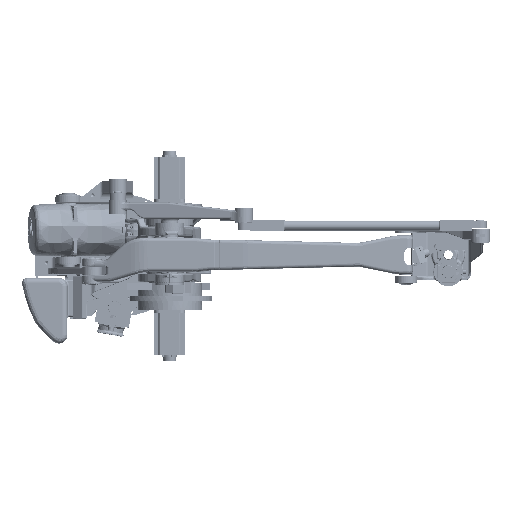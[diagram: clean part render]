
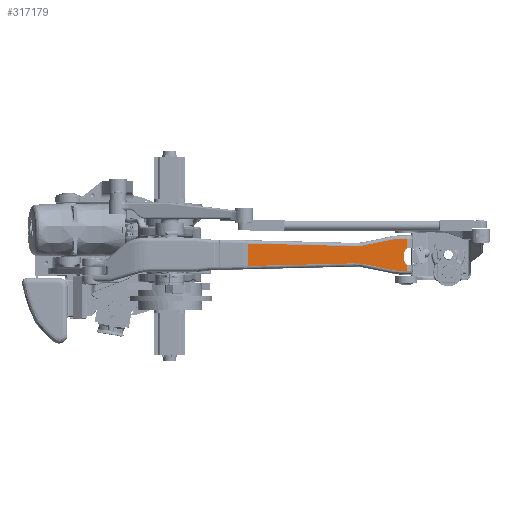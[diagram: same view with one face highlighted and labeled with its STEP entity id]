
A CAD part, top view. The second image highlights one B-rep face of the part: STEP entity #317179.
In plain terms, the highlighted planar face has unit normal (0.106, 0, 0.994).
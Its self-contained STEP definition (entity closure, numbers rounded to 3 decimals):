
#317045=AXIS2_PLACEMENT_3D('Plane Axis2P3D',#317042,#317043,#317044) ;
#314397=CARTESIAN_POINT('Vertex',(735.813,66.401,2293.319)) ;
#314400=CARTESIAN_POINT('Line Origine',(1052.331,58.488,2259.668)) ;
#314404=CARTESIAN_POINT('Vertex',(1368.848,50.575,2226.017)) ;
#314790=CARTESIAN_POINT('Vertex',(735.813,-66.401,2293.319)) ;
#314815=CARTESIAN_POINT('Vertex',(1368.848,-50.575,2226.017)) ;
#314818=CARTESIAN_POINT('Line Origine',(1052.331,-58.488,2259.668)) ;
#316991=CARTESIAN_POINT('Control Point',(1418.434,54.969,2220.745)) ;
#316992=CARTESIAN_POINT('Control Point',(1402.145,51.636,2222.477)) ;
#316993=CARTESIAN_POINT('Control Point',(1385.47,50.158,2224.25)) ;
#316994=CARTESIAN_POINT('Control Point',(1368.848,50.575,2226.017)) ;
#316995=CARTESIAN_POINT('Vertex',(1418.434,54.969,2220.745)) ;
#317042=CARTESIAN_POINT('Axis2P3D Location',(1692.997,98.8,2191.555)) ;
#317047=CARTESIAN_POINT('Line Origine',(1674.229,66.906,2193.55)) ;
#317051=CARTESIAN_POINT('Vertex',(1674.229,95.,2193.55)) ;
#317053=CARTESIAN_POINT('Vertex',(1674.229,38.813,2193.55)) ;
#317056=CARTESIAN_POINT('Line Origine',(1653.901,95.,2195.712)) ;
#317060=CARTESIAN_POINT('Vertex',(1633.574,95.,2197.873)) ;
#317064=CARTESIAN_POINT('Control Point',(1595.098,91.105,2201.963)) ;
#317065=CARTESIAN_POINT('Control Point',(1602.687,92.658,2201.156)) ;
#317066=CARTESIAN_POINT('Control Point',(1610.357,93.827,2200.341)) ;
#317067=CARTESIAN_POINT('Control Point',(1618.079,94.609,2199.52)) ;
#317068=CARTESIAN_POINT('Control Point',(1625.828,95.001,2198.696)) ;
#317069=CARTESIAN_POINT('Control Point',(1633.574,95.,2197.873)) ;
#317070=CARTESIAN_POINT('Vertex',(1595.098,91.105,2201.963)) ;
#317073=CARTESIAN_POINT('Line Origine',(1506.766,73.037,2211.354)) ;
#317078=CARTESIAN_POINT('Line Origine',(735.813,0.,2293.319)) ;
#317084=CARTESIAN_POINT('Control Point',(1368.848,-50.575,2226.017)) ;
#317085=CARTESIAN_POINT('Control Point',(1378.822,-50.325,2224.957)) ;
#317086=CARTESIAN_POINT('Control Point',(1388.81,-50.643,2223.895)) ;
#317087=CARTESIAN_POINT('Control Point',(1398.771,-51.526,2222.836)) ;
#317088=CARTESIAN_POINT('Control Point',(1408.66,-52.969,2221.785)) ;
#317089=CARTESIAN_POINT('Control Point',(1418.434,-54.969,2220.745)) ;
#317090=CARTESIAN_POINT('Vertex',(1418.434,-54.969,2220.745)) ;
#317093=CARTESIAN_POINT('Line Origine',(1506.766,-73.037,2211.354)) ;
#317097=CARTESIAN_POINT('Vertex',(1595.098,-91.105,2201.963)) ;
#317101=CARTESIAN_POINT('Control Point',(1633.574,-95.,2197.873)) ;
#317102=CARTESIAN_POINT('Control Point',(1625.828,-95.001,2198.696)) ;
#317103=CARTESIAN_POINT('Control Point',(1618.079,-94.609,2199.52)) ;
#317104=CARTESIAN_POINT('Control Point',(1610.357,-93.827,2200.341)) ;
#317105=CARTESIAN_POINT('Control Point',(1602.687,-92.658,2201.156)) ;
#317106=CARTESIAN_POINT('Control Point',(1595.098,-91.105,2201.963)) ;
#317107=CARTESIAN_POINT('Vertex',(1633.574,-95.,2197.873)) ;
#317110=CARTESIAN_POINT('Line Origine',(1653.901,-95.,2195.712)) ;
#317114=CARTESIAN_POINT('Vertex',(1674.229,-95.,2193.55)) ;
#317117=CARTESIAN_POINT('Line Origine',(1674.229,-76.906,2193.55)) ;
#317121=CARTESIAN_POINT('Vertex',(1674.229,-58.813,2193.55)) ;
#317125=CARTESIAN_POINT('Control Point',(1657.317,-30.,2195.348)) ;
#317126=CARTESIAN_POINT('Control Point',(1657.315,-32.519,2195.349)) ;
#317127=CARTESIAN_POINT('Control Point',(1657.559,-35.039,2195.323)) ;
#317128=CARTESIAN_POINT('Control Point',(1658.041,-37.534,2195.271)) ;
#317129=CARTESIAN_POINT('Control Point',(1659.471,-42.394,2195.119)) ;
#317130=CARTESIAN_POINT('Control Point',(1661.801,-46.893,2194.872)) ;
#317131=CARTESIAN_POINT('Control Point',(1663.181,-49.036,2194.725)) ;
#317132=CARTESIAN_POINT('Control Point',(1665.977,-52.566,2194.428)) ;
#317133=CARTESIAN_POINT('Control Point',(1669.321,-55.571,2194.072)) ;
#317134=CARTESIAN_POINT('Control Point',(1670.877,-56.774,2193.907)) ;
#317135=CARTESIAN_POINT('Control Point',(1672.517,-57.858,2193.732)) ;
#317136=CARTESIAN_POINT('Control Point',(1674.229,-58.813,2193.55)) ;
#317137=CARTESIAN_POINT('Vertex',(1657.317,-30.,2195.348)) ;
#317140=CARTESIAN_POINT('Line Origine',(1657.317,-10.,2195.348)) ;
#317144=CARTESIAN_POINT('Vertex',(1657.317,10.,2195.348)) ;
#317148=CARTESIAN_POINT('Control Point',(1674.229,38.813,2193.55)) ;
#317149=CARTESIAN_POINT('Control Point',(1672.025,37.584,2193.785)) ;
#317150=CARTESIAN_POINT('Control Point',(1669.94,36.14,2194.006)) ;
#317151=CARTESIAN_POINT('Control Point',(1667.995,34.5,2194.213)) ;
#317152=CARTESIAN_POINT('Control Point',(1664.447,30.878,2194.59)) ;
#317153=CARTESIAN_POINT('Control Point',(1661.657,26.646,2194.887)) ;
#317154=CARTESIAN_POINT('Control Point',(1660.46,24.397,2195.014)) ;
#317155=CARTESIAN_POINT('Control Point',(1658.744,20.237,2195.197)) ;
#317156=CARTESIAN_POINT('Control Point',(1657.753,15.856,2195.302)) ;
#317157=CARTESIAN_POINT('Control Point',(1657.462,13.913,2195.333)) ;
#317158=CARTESIAN_POINT('Control Point',(1657.316,11.956,2195.349)) ;
#317159=CARTESIAN_POINT('Control Point',(1657.317,10.,2195.348)) ;
#314401=DIRECTION('Vector Direction',(0.994,-0.025,-0.106)) ;
#314819=DIRECTION('Vector Direction',(-0.994,-0.025,0.106)) ;
#317043=DIRECTION('Axis2P3D Direction',(0.106,0.,0.994)) ;
#317044=DIRECTION('Axis2P3D XDirection',(-0.994,0.,0.106)) ;
#317048=DIRECTION('Vector Direction',(0.,-1.,0.)) ;
#317057=DIRECTION('Vector Direction',(0.994,0.,-0.106)) ;
#317074=DIRECTION('Vector Direction',(0.974,0.199,-0.104)) ;
#317079=DIRECTION('Vector Direction',(0.,-1.,0.)) ;
#317094=DIRECTION('Vector Direction',(-0.974,0.199,0.104)) ;
#317111=DIRECTION('Vector Direction',(-0.994,0.,0.106)) ;
#317118=DIRECTION('Vector Direction',(0.,-1.,0.)) ;
#317141=DIRECTION('Vector Direction',(0.,-1.,0.)) ;
#314402=VECTOR('Line Direction',#314401,1.) ;
#314820=VECTOR('Line Direction',#314819,1.) ;
#317049=VECTOR('Line Direction',#317048,1.) ;
#317058=VECTOR('Line Direction',#317057,1.) ;
#317075=VECTOR('Line Direction',#317074,1.) ;
#317080=VECTOR('Line Direction',#317079,1.) ;
#317095=VECTOR('Line Direction',#317094,1.) ;
#317112=VECTOR('Line Direction',#317111,1.) ;
#317119=VECTOR('Line Direction',#317118,1.) ;
#317142=VECTOR('Line Direction',#317141,1.) ;
#317162=ORIENTED_EDGE('',*,*,#317055,.F.) ;
#317163=ORIENTED_EDGE('',*,*,#317062,.T.) ;
#317164=ORIENTED_EDGE('',*,*,#317072,.T.) ;
#317165=ORIENTED_EDGE('',*,*,#317077,.T.) ;
#317166=ORIENTED_EDGE('',*,*,#316997,.T.) ;
#317167=ORIENTED_EDGE('',*,*,#314406,.T.) ;
#317168=ORIENTED_EDGE('',*,*,#317082,.T.) ;
#317169=ORIENTED_EDGE('',*,*,#314822,.T.) ;
#317170=ORIENTED_EDGE('',*,*,#317092,.T.) ;
#317171=ORIENTED_EDGE('',*,*,#317099,.T.) ;
#317172=ORIENTED_EDGE('',*,*,#317109,.T.) ;
#317173=ORIENTED_EDGE('',*,*,#317116,.T.) ;
#317174=ORIENTED_EDGE('',*,*,#317123,.F.) ;
#317175=ORIENTED_EDGE('',*,*,#317139,.F.) ;
#317176=ORIENTED_EDGE('',*,*,#317146,.F.) ;
#317177=ORIENTED_EDGE('',*,*,#317160,.F.) ;
#317179=ADVANCED_FACE('',(#317178),#317046,.T.) ;
#316990=B_SPLINE_CURVE_WITH_KNOTS('',3,(#316991,#316992,#316993,#316994),.UNSPECIFIED.,.F.,.U.,(4,4),(0.,68.94),.UNSPECIFIED.) ;
#317063=B_SPLINE_CURVE_WITH_KNOTS('',5,(#317064,#317065,#317066,#317067,#317068,#317069),.UNSPECIFIED.,.F.,.U.,(6,6),(0.,55.091),.UNSPECIFIED.) ;
#317083=B_SPLINE_CURVE_WITH_KNOTS('',5,(#317084,#317085,#317086,#317087,#317088,#317089),.UNSPECIFIED.,.F.,.U.,(6,6),(0.,70.945),.UNSPECIFIED.) ;
#317100=B_SPLINE_CURVE_WITH_KNOTS('',5,(#317101,#317102,#317103,#317104,#317105,#317106),.UNSPECIFIED.,.F.,.U.,(6,6),(0.,55.091),.UNSPECIFIED.) ;
#317124=B_SPLINE_CURVE_WITH_KNOTS('',5,(#317125,#317126,#317127,#317128,#317129,#317130,#317131,#317132,#317133,#317134,#317135,#317136),.UNSPECIFIED.,.F.,.U.,(6,3,3,6),(0.,17.857,35.724,49.607),.UNSPECIFIED.) ;
#317147=B_SPLINE_CURVE_WITH_KNOTS('',5,(#317148,#317149,#317150,#317151,#317152,#317153,#317154,#317155,#317156,#317157,#317158,#317159),.UNSPECIFIED.,.F.,.U.,(6,3,3,6),(0.,17.876,35.74,49.607),.UNSPECIFIED.) ;
#314406=EDGE_CURVE('',#314405,#314398,#314403,.F.) ;
#314822=EDGE_CURVE('',#314791,#314816,#314821,.F.) ;
#316997=EDGE_CURVE('',#316996,#314405,#316990,.T.) ;
#317055=EDGE_CURVE('',#317052,#317054,#317050,.T.) ;
#317062=EDGE_CURVE('',#317052,#317061,#317059,.F.) ;
#317072=EDGE_CURVE('',#317061,#317071,#317063,.F.) ;
#317077=EDGE_CURVE('',#317071,#316996,#317076,.F.) ;
#317082=EDGE_CURVE('',#314398,#314791,#317081,.T.) ;
#317092=EDGE_CURVE('',#314816,#317091,#317083,.T.) ;
#317099=EDGE_CURVE('',#317091,#317098,#317096,.F.) ;
#317109=EDGE_CURVE('',#317098,#317108,#317100,.F.) ;
#317116=EDGE_CURVE('',#317108,#317115,#317113,.F.) ;
#317123=EDGE_CURVE('',#317122,#317115,#317120,.T.) ;
#317139=EDGE_CURVE('',#317138,#317122,#317124,.T.) ;
#317146=EDGE_CURVE('',#317145,#317138,#317143,.T.) ;
#317160=EDGE_CURVE('',#317054,#317145,#317147,.T.) ;
#317161=EDGE_LOOP('',(#317162,#317163,#317164,#317165,#317166,#317167,#317168,#317169,#317170,#317171,#317172,#317173,#317174,#317175,#317176,#317177)) ;
#317178=FACE_OUTER_BOUND('',#317161,.T.) ;
#314403=LINE('Line',#314400,#314402) ;
#314821=LINE('Line',#314818,#314820) ;
#317050=LINE('Line',#317047,#317049) ;
#317059=LINE('Line',#317056,#317058) ;
#317076=LINE('Line',#317073,#317075) ;
#317081=LINE('Line',#317078,#317080) ;
#317096=LINE('Line',#317093,#317095) ;
#317113=LINE('Line',#317110,#317112) ;
#317120=LINE('Line',#317117,#317119) ;
#317143=LINE('Line',#317140,#317142) ;
#317046=PLANE('Plane',#317045) ;
#314398=VERTEX_POINT('',#314397) ;
#314405=VERTEX_POINT('',#314404) ;
#314791=VERTEX_POINT('',#314790) ;
#314816=VERTEX_POINT('',#314815) ;
#316996=VERTEX_POINT('',#316995) ;
#317052=VERTEX_POINT('',#317051) ;
#317054=VERTEX_POINT('',#317053) ;
#317061=VERTEX_POINT('',#317060) ;
#317071=VERTEX_POINT('',#317070) ;
#317091=VERTEX_POINT('',#317090) ;
#317098=VERTEX_POINT('',#317097) ;
#317108=VERTEX_POINT('',#317107) ;
#317115=VERTEX_POINT('',#317114) ;
#317122=VERTEX_POINT('',#317121) ;
#317138=VERTEX_POINT('',#317137) ;
#317145=VERTEX_POINT('',#317144) ;
